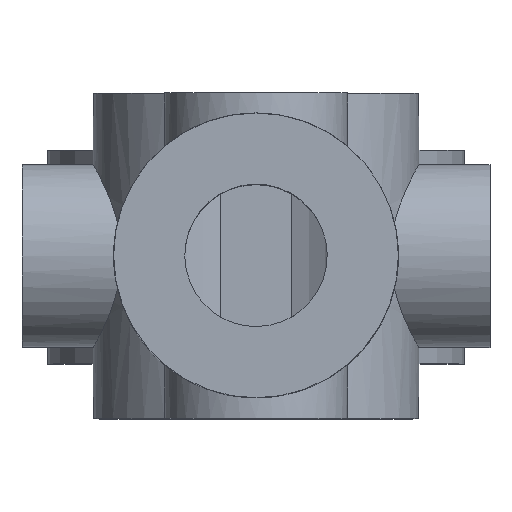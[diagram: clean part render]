
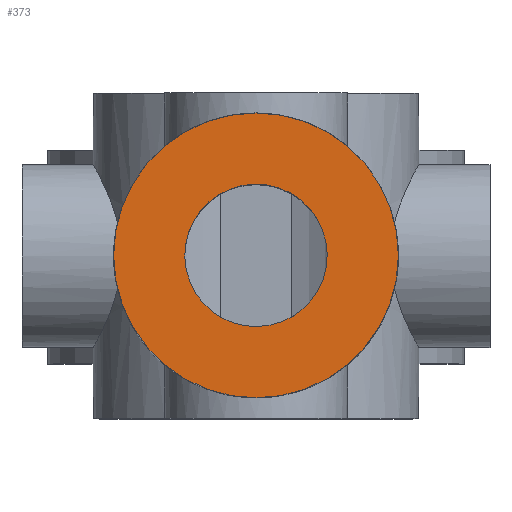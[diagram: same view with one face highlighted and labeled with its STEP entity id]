
A CAD part, top view. The second image highlights one B-rep face of the part: STEP entity #373.
In plain terms, the highlighted planar face has unit normal (0, 0, 1).
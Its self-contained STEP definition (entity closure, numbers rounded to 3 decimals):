
#332=CARTESIAN_POINT('Axis2P3D Location',(0.,0.,165.1)) ;
#337=CARTESIAN_POINT('Axis2P3D Location',(0.,0.,165.1)) ;
#341=CARTESIAN_POINT('Vertex',(22.225,0.,165.1)) ;
#343=CARTESIAN_POINT('Vertex',(-22.225,0.,165.1)) ;
#346=CARTESIAN_POINT('Axis2P3D Location',(0.,0.,165.1)) ;
#355=CARTESIAN_POINT('Axis2P3D Location',(0.,0.,165.1)) ;
#359=CARTESIAN_POINT('Vertex',(-9.752,5.328,165.1)) ;
#361=CARTESIAN_POINT('Vertex',(9.752,-5.328,165.1)) ;
#364=CARTESIAN_POINT('Axis2P3D Location',(0.,0.,165.1)) ;
#333=DIRECTION('Axis2P3D Direction',(0.,0.,1.)) ;
#334=DIRECTION('Axis2P3D XDirection',(1.,0.,0.)) ;
#338=DIRECTION('Axis2P3D Direction',(0.,0.,1.)) ;
#347=DIRECTION('Axis2P3D Direction',(0.,0.,1.)) ;
#356=DIRECTION('Axis2P3D Direction',(0.,0.,1.)) ;
#365=DIRECTION('Axis2P3D Direction',(0.,0.,1.)) ;
#335=AXIS2_PLACEMENT_3D('Plane Axis2P3D',#332,#333,#334) ;
#339=AXIS2_PLACEMENT_3D('Circle Axis2P3D',#337,#338,$) ;
#348=AXIS2_PLACEMENT_3D('Circle Axis2P3D',#346,#347,$) ;
#357=AXIS2_PLACEMENT_3D('Circle Axis2P3D',#355,#356,$) ;
#366=AXIS2_PLACEMENT_3D('Circle Axis2P3D',#364,#365,$) ;
#352=ORIENTED_EDGE('',*,*,#345,.T.) ;
#353=ORIENTED_EDGE('',*,*,#350,.T.) ;
#370=ORIENTED_EDGE('',*,*,#363,.F.) ;
#371=ORIENTED_EDGE('',*,*,#368,.F.) ;
#372=FACE_BOUND('',#369,.T.) ;
#373=ADVANCED_FACE('PartBody',(#354,#372),#336,.T.) ;
#340=CIRCLE('generated circle',#339,22.225) ;
#349=CIRCLE('generated circle',#348,22.225) ;
#358=CIRCLE('generated circle',#357,11.113) ;
#367=CIRCLE('generated circle',#366,11.113) ;
#345=EDGE_CURVE('',#342,#344,#340,.T.) ;
#350=EDGE_CURVE('',#344,#342,#349,.T.) ;
#363=EDGE_CURVE('',#360,#362,#358,.T.) ;
#368=EDGE_CURVE('',#362,#360,#367,.T.) ;
#351=EDGE_LOOP('',(#352,#353)) ;
#369=EDGE_LOOP('',(#370,#371)) ;
#354=FACE_OUTER_BOUND('',#351,.T.) ;
#336=PLANE('Plane',#335) ;
#342=VERTEX_POINT('',#341) ;
#344=VERTEX_POINT('',#343) ;
#360=VERTEX_POINT('',#359) ;
#362=VERTEX_POINT('',#361) ;
